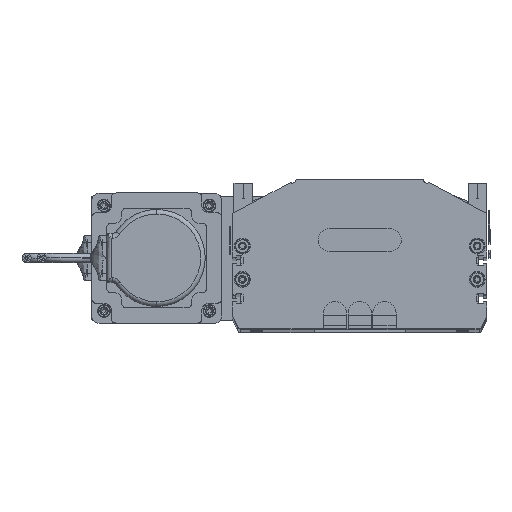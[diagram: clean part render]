
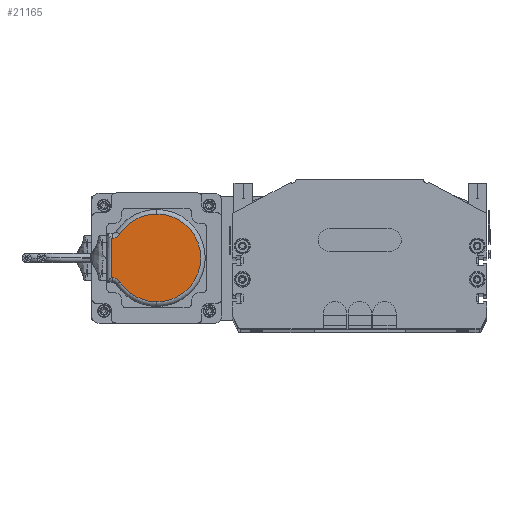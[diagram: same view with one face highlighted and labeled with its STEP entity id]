
A CAD part, top view. The second image highlights one B-rep face of the part: STEP entity #21165.
In plain terms, the highlighted planar face has unit normal (0, 0, 1).
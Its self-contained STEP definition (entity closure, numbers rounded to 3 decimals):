
#21163 = EDGE_CURVE ( 'NONE', #21345, #21305, #47862, .T. ) ;
#21165 = ADVANCED_FACE ( 'NONE', ( #47914 ), #47868, .T. ) ;
#21170 = VERTEX_POINT ( 'NONE', #47891 ) ;
#21184 = VERTEX_POINT ( 'NONE', #53852 ) ;
#21186 = ORIENTED_EDGE ( 'NONE', *, *, #21344, .F. ) ;
#21187 = ORIENTED_EDGE ( 'NONE', *, *, #21304, .T. ) ;
#21188 = VERTEX_POINT ( 'NONE', #53423 ) ;
#21198 = VERTEX_POINT ( 'NONE', #48494 ) ;
#21199 = EDGE_LOOP ( 'NONE', ( #21343, #21303, #21311, #21187, #21186, #21342, #21317, #21326 ) ) ;
#21208 = EDGE_CURVE ( 'NONE', #21253, #21170, #48477, .T. ) ;
#21227 = VERTEX_POINT ( 'NONE', #48555 ) ;
#21253 = VERTEX_POINT ( 'NONE', #48647 ) ;
#21255 = EDGE_CURVE ( 'NONE', #21227, #21253, #48643, .T. ) ;
#21303 = ORIENTED_EDGE ( 'NONE', *, *, #21255, .T. ) ;
#21304 = EDGE_CURVE ( 'NONE', #21170, #21184, #48688, .T. ) ;
#21305 = VERTEX_POINT ( 'NONE', #49532 ) ;
#21311 = ORIENTED_EDGE ( 'NONE', *, *, #21208, .T. ) ;
#21313 = EDGE_CURVE ( 'NONE', #21227, #21188, #49506, .T. ) ;
#21315 = EDGE_CURVE ( 'NONE', #21305, #21198, #49516, .T. ) ;
#21317 = ORIENTED_EDGE ( 'NONE', *, *, #21315, .T. ) ;
#21318 = EDGE_CURVE ( 'NONE', #21198, #21188, #49583, .T. ) ;
#21326 = ORIENTED_EDGE ( 'NONE', *, *, #21318, .T. ) ;
#21342 = ORIENTED_EDGE ( 'NONE', *, *, #21163, .T. ) ;
#21343 = ORIENTED_EDGE ( 'NONE', *, *, #21313, .F. ) ;
#21344 = EDGE_CURVE ( 'NONE', #21345, #21184, #49536, .T. ) ;
#21345 = VERTEX_POINT ( 'NONE', #49609 ) ;
#47862 = LINE ( 'NONE', #47912, #47911 ) ;
#47868 = PLANE ( 'NONE',  #47869 ) ;
#47869 = AXIS2_PLACEMENT_3D ( 'NONE', #47909, #47901, #47900 ) ;
#47891 = CARTESIAN_POINT ( 'NONE',  ( 62., 33., 26. ) ) ;
#47900 = DIRECTION ( 'NONE',  ( 1., 0., 0. ) ) ;
#47901 = DIRECTION ( 'NONE',  ( 0., 0., 1. ) ) ;
#47909 = CARTESIAN_POINT ( 'NONE',  ( 33., 33., 26. ) ) ;
#47910 = DIRECTION ( 'NONE',  ( 0., 1., 0. ) ) ;
#47911 = VECTOR ( 'NONE', #47910, 1000. ) ;
#47912 = CARTESIAN_POINT ( 'NONE',  ( 46., 33., 26. ) ) ;
#47914 = FACE_OUTER_BOUND ( 'NONE', #21199, .T. ) ;
#47924 = DIRECTION ( 'NONE',  ( 1., 0., 0. ) ) ;
#47936 = DIRECTION ( 'NONE',  ( 0., 0., 1. ) ) ;
#47938 = CARTESIAN_POINT ( 'NONE',  ( 33., 33., 26. ) ) ;
#48464 = DIRECTION ( 'NONE',  ( 1., 0., 0. ) ) ;
#48465 = DIRECTION ( 'NONE',  ( 0., 0., 1. ) ) ;
#48466 = CARTESIAN_POINT ( 'NONE',  ( 33., 33., 26. ) ) ;
#48467 = AXIS2_PLACEMENT_3D ( 'NONE', #48466, #48465, #48464 ) ;
#48477 = CIRCLE ( 'NONE', #48467, 29. ) ;
#48494 = CARTESIAN_POINT ( 'NONE',  ( 20., 63., 26. ) ) ;
#48555 = CARTESIAN_POINT ( 'NONE',  ( 17.257, 57.355, 26. ) ) ;
#48635 = DIRECTION ( 'NONE',  ( 1., 0., 0. ) ) ;
#48636 = DIRECTION ( 'NONE',  ( 0., 0., 1. ) ) ;
#48637 = CARTESIAN_POINT ( 'NONE',  ( 33., 33., 26. ) ) ;
#48638 = AXIS2_PLACEMENT_3D ( 'NONE', #48637, #48636, #48635 ) ;
#48643 = CIRCLE ( 'NONE', #48638, 29. ) ;
#48647 = CARTESIAN_POINT ( 'NONE',  ( 4., 33., 26. ) ) ;
#48688 = CIRCLE ( 'NONE', #48694, 29. ) ;
#48694 = AXIS2_PLACEMENT_3D ( 'NONE', #47938, #47936, #47924 ) ;
#49499 = DIRECTION ( 'NONE',  ( 1., 0., 0. ) ) ;
#49500 = DIRECTION ( 'NONE',  ( 0., 0., 1. ) ) ;
#49501 = CARTESIAN_POINT ( 'NONE',  ( 14., 62.394, 26. ) ) ;
#49502 = AXIS2_PLACEMENT_3D ( 'NONE', #49501, #49500, #49499 ) ;
#49504 = DIRECTION ( 'NONE',  ( -1., 0., 0. ) ) ;
#49505 = CARTESIAN_POINT ( 'NONE',  ( 17.5, 63., 26. ) ) ;
#49506 = CIRCLE ( 'NONE', #49502, 6. ) ;
#49516 = LINE ( 'NONE', #49505, #49587 ) ;
#49532 = CARTESIAN_POINT ( 'NONE',  ( 46., 63., 26. ) ) ;
#49536 = CIRCLE ( 'NONE', #49615, 6. ) ;
#49574 = DIRECTION ( 'NONE',  ( 0., -1., 0. ) ) ;
#49576 = VECTOR ( 'NONE', #49574, 1000. ) ;
#49578 = CARTESIAN_POINT ( 'NONE',  ( 20., 33., 26. ) ) ;
#49583 = LINE ( 'NONE', #49578, #49576 ) ;
#49587 = VECTOR ( 'NONE', #49504, 1000. ) ;
#49609 = CARTESIAN_POINT ( 'NONE',  ( 46., 62.394, 26. ) ) ;
#49613 = DIRECTION ( 'NONE',  ( 0., 0., 1. ) ) ;
#49615 = AXIS2_PLACEMENT_3D ( 'NONE', #49618, #49613, #49625 ) ;
#49618 = CARTESIAN_POINT ( 'NONE',  ( 52., 62.394, 26. ) ) ;
#49625 = DIRECTION ( 'NONE',  ( 1., 0., 0. ) ) ;
#53423 = CARTESIAN_POINT ( 'NONE',  ( 20., 62.394, 26. ) ) ;
#53852 = CARTESIAN_POINT ( 'NONE',  ( 48.743, 57.355, 26. ) ) ;
